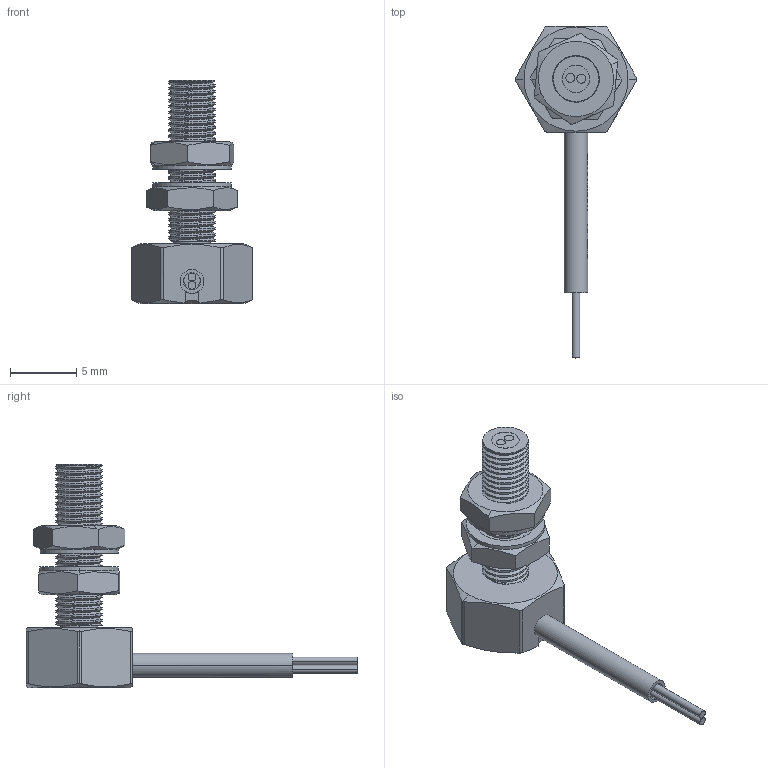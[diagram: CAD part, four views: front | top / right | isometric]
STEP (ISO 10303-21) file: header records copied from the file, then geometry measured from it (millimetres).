
FILE_DESCRIPTION (( 'STEP AP203' ), '1' );
FILE_NAME ('PD-32TZ.STEP', '2016-06-30T01:34:23', ( '' ), ( '' ), 'SwSTEP 2.0', 'SolidWorks 2013', '' );
FILE_SCHEMA (( 'CONFIG_CONTROL_DESIGN' ));
Length unit declared in the file: millimetre
Products named in the file (1): PD-32TZ
Bounding box: 9.14 x 25 x 16.8 mm (x, y, z)
Volume: 468.9 mm3; surface area: 840 mm2
Topology: 3 solids, 3 shells, 348 faces, 972 edges, 642 vertices
Faces by surface type: plane 196, cylinder 106, bspline 30, cone 13, torus 3
Entity records: 17598 total; most frequent: CARTESIAN_POINT 9158, ORIENTED_EDGE 1940, DIRECTION 1525, EDGE_CURVE 970, VERTEX_POINT 642, VECTOR 517, LINE 517, AXIS2_PLACEMENT_3D 504
